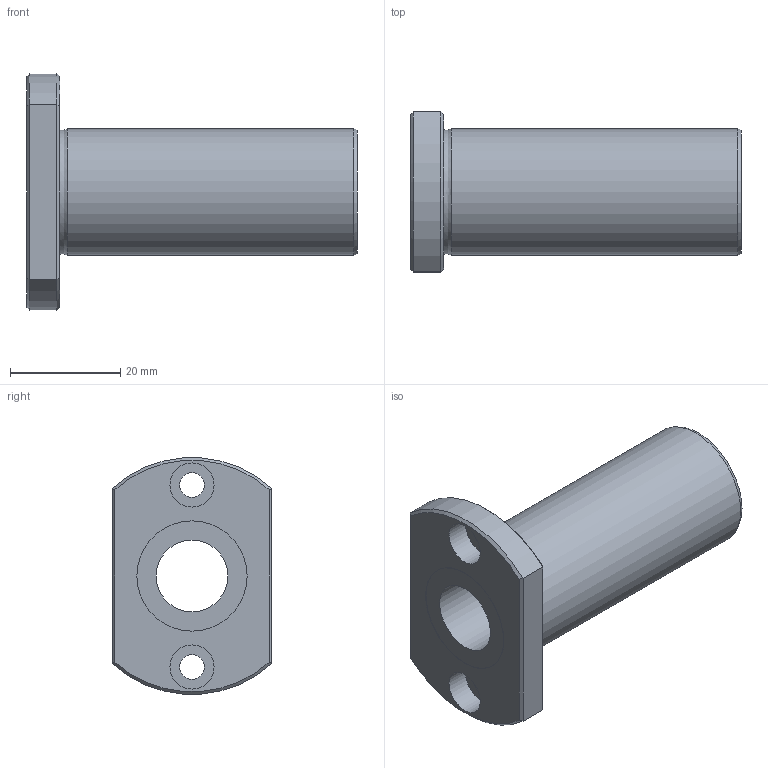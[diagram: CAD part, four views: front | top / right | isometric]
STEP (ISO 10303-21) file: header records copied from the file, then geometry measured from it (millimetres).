
FILE_DESCRIPTION((''),'2;1');
FILE_NAME('D:\製品 (図面)\カタログ用3D\リニアベアリング関連\STEP形式\LFDT\LFDT13.stp','2010-06-03T09:44:31',('Tsuchiya'),(''),'Autodesk Inventor 10','Autodesk Inventor 10','');
FILE_SCHEMA(('AUTOMOTIVE_DESIGN { 1 0 10303 214 1 1 1 1 }'));
Length unit declared in the file: millimetre
Products named in the file (1): LFDT13
Bounding box: 60 x 29 x 42.85 mm (x, y, z)
Volume: 20754.8 mm3; surface area: 9268 mm2
Topology: 1 solids, 1 shells, 29 faces, 56 edges, 34 vertices
Faces by surface type: plane 13, cylinder 10, cone 4, torus 1, bspline 1
Full cylindrical faces by diameter (mm): 4.5 x2, 8 x2, 13 x1, 20 x2, 23 x1
Entity records: 787 total; most frequent: CARTESIAN_POINT 196, DIRECTION 122, ORIENTED_EDGE 92, AXIS2_PLACEMENT_3D 55, EDGE_LOOP 50, EDGE_CURVE 46, VERTEX_POINT 34, FACE_OUTER_BOUND 29
